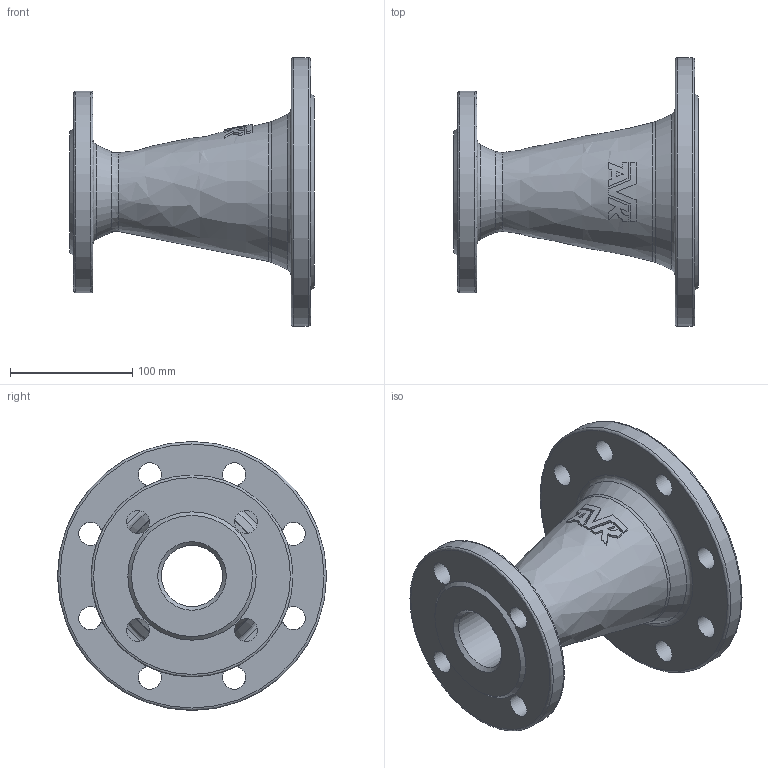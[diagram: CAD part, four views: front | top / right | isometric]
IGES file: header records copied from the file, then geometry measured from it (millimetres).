
Start section: SolidWorks IGES file using analytic representation for surfaces
Global section: file name: \\avksan2\techshare\PBM outline export from Enovia\O_712_2210_DN100_DN50_1X_REV01.igs; native system: SolidWorks 2022; preprocessor: SolidWorks 2022; author: pbm; date: 240807.125703; units: millimetre
Bounding box: 200 x 220 x 220 mm (x, y, z)
Surface area: 208265.1 mm2 (no closed solid volume)
Topology: 0 solids, 0 shells, 89 faces, 424 edges, 390 vertices
Faces by surface type: bspline 49, revolution 40
